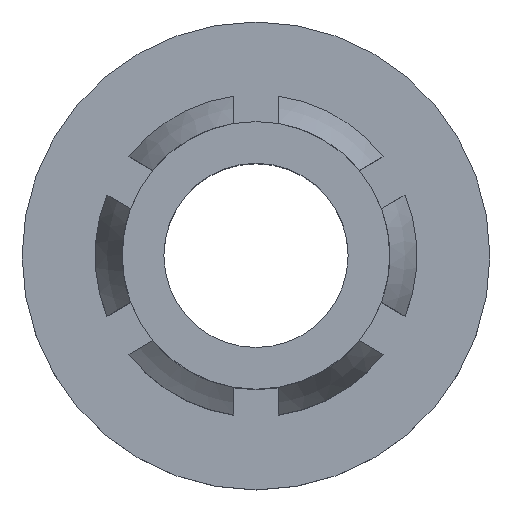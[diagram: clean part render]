
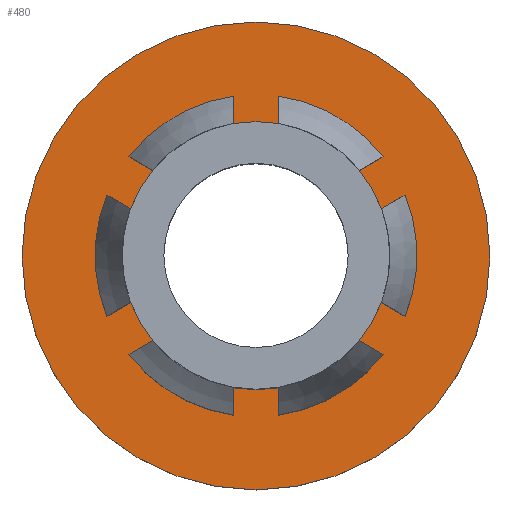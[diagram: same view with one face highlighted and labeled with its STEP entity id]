
A CAD part, top view. The second image highlights one B-rep face of the part: STEP entity #480.
In plain terms, the highlighted planar face has unit normal (0, 0, 1).
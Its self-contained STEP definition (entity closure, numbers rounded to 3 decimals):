
#5 = CARTESIAN_POINT ( 'NONE',  ( 8.938, 0., -18.201 ) ) ;
#46 = DIRECTION ( 'NONE',  ( 0., 0., -1. ) ) ;
#75 = ORIENTED_EDGE ( 'NONE', *, *, #1340, .T. ) ;
#111 = DIRECTION ( 'NONE',  ( 0., 0., -1. ) ) ;
#120 = CARTESIAN_POINT ( 'NONE',  ( 7.122, 0., -18.201 ) ) ;
#199 = FACE_BOUND ( 'NONE', #1439, .T. ) ;
#213 = ORIENTED_EDGE ( 'NONE', *, *, #1036, .F. ) ;
#284 = CARTESIAN_POINT ( 'NONE',  ( 12.113, 0., -18.201 ) ) ;
#325 = DIRECTION ( 'NONE',  ( -1., 0., 0. ) ) ;
#480 = ADVANCED_FACE ( 'NONE', ( #199, #812 ), #562, .F. ) ;
#562 = PLANE ( 'NONE',  #569 ) ;
#569 = AXIS2_PLACEMENT_3D ( 'NONE', #284, #1024, #695 ) ;
#573 = CIRCLE ( 'NONE', #758, 3.175 ) ;
#695 = DIRECTION ( 'NONE',  ( -1., 0., 0. ) ) ;
#758 = AXIS2_PLACEMENT_3D ( 'NONE', #5, #111, #325 ) ;
#812 = FACE_OUTER_BOUND ( 'NONE', #848, .T. ) ;
#848 = EDGE_LOOP ( 'NONE', ( #213 ) ) ;
#854 = VERTEX_POINT ( 'NONE', #120 ) ;
#1024 = DIRECTION ( 'NONE',  ( 0., 0., -1. ) ) ;
#1036 = EDGE_CURVE ( 'NONE', #1267, #1267, #573, .T. ) ;
#1176 = DIRECTION ( 'NONE',  ( -1., 0., 0. ) ) ;
#1267 = VERTEX_POINT ( 'NONE', #1469 ) ;
#1340 = EDGE_CURVE ( 'NONE', #854, #854, #1471, .T. ) ;
#1439 = EDGE_LOOP ( 'NONE', ( #75 ) ) ;
#1469 = CARTESIAN_POINT ( 'NONE',  ( 5.763, 0., -18.201 ) ) ;
#1471 = CIRCLE ( 'NONE', #1541, 1.816 ) ;
#1516 = CARTESIAN_POINT ( 'NONE',  ( 8.938, 0., -18.201 ) ) ;
#1541 = AXIS2_PLACEMENT_3D ( 'NONE', #1516, #46, #1176 ) ;
